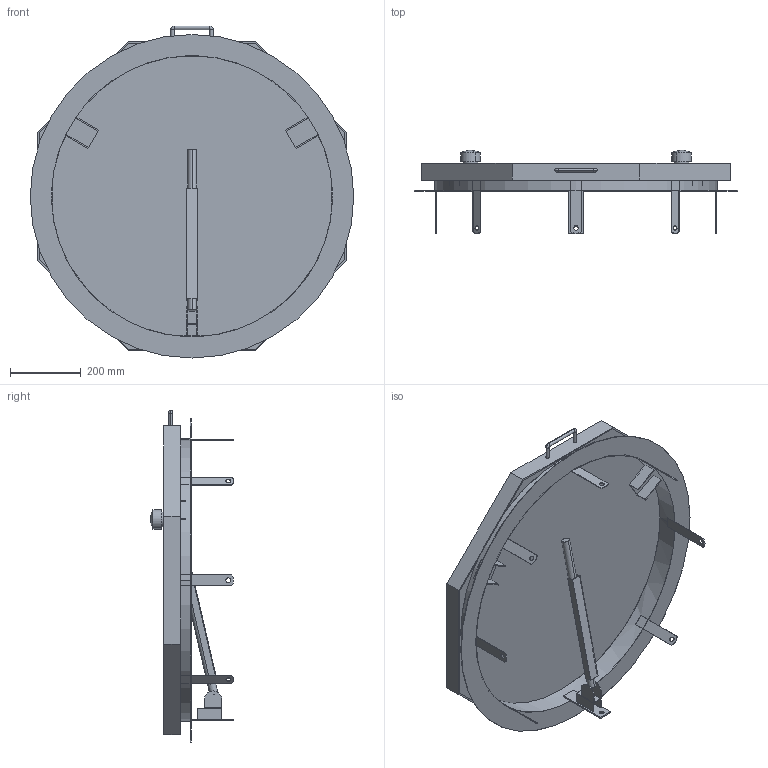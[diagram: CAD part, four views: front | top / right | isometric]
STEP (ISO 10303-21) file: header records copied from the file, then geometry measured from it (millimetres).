
FILE_DESCRIPTION((''),'2;1');
FILE_NAME('52391799','2025-04-30T09:59:33',('wep'),('HUBER SE'),'CREO PARAMETRIC BY PTC INC, 2022162','CREO PARAMETRIC BY PTC INC, 2022162','');
FILE_SCHEMA(('AUTOMOTIVE_DESIGN { 1 0 10303 214 1 1 1 1 }'));
Length unit declared in the file: millimetre
Products named in the file (1): 52391799
Bounding box: 915 x 235 x 939 mm (x, y, z)
Volume: 4203613.2 mm3; surface area: 2373553.6 mm2
Topology: 4 solids, 4 shells, 754 faces, 2071 edges, 1371 vertices
Faces by surface type: plane 423, extrusion 275, cylinder 48, bspline 4, sphere 4
Entity records: 25804 total; most frequent: CARTESIAN_POINT 6919, ORIENTED_EDGE 4126, DIRECTION 2865, EDGE_CURVE 2063, VECTOR 1661, LINE 1386, VERTEX_POINT 1371, EDGE_LOOP 830
